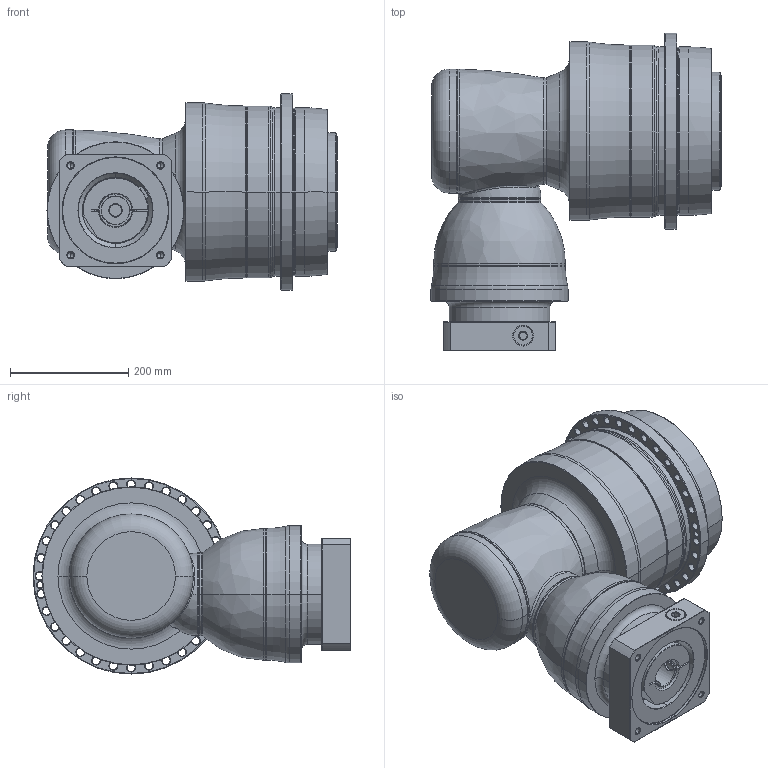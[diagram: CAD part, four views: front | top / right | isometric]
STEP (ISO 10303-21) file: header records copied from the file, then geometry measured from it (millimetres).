
FILE_DESCRIPTION((''),'2;1');
FILE_NAME('APK285_4ST_48-P0409B10201_ASM','2018-11-22T',('D00080'),(''),'PRO/ENGINEER BY PARAMETRIC TECHNOLOGY CORPORATION, 2015240','PRO/ENGINEER BY PARAMETRIC TECHNOLOGY CORPORATION, 2015240','');
FILE_SCHEMA(('CONFIG_CONTROL_DESIGN'));
Length unit declared in the file: millimetre
Products named in the file (13): P1008600002; P1832810001; P0278801003; P0359801103; P1211800001; P1315600001; P1007601001; P1317610601; P0503B00016; P0912556001; P0409B10201; 21711426021; APK285_4ST_48-P0409B10201_ASM
Assembly tree (12 placements, depth 2):
  APK285_4ST_48-P0409B10201_ASM
    P1008600002
    P1832810001
    P0278801003
    P0359801103
    P1211800001
    P1315600001
    P1007601001
    P1317610601
    P0503B00016
    P0912556001
    P0409B10201
    21711426021
Bounding box: 491 x 538 x 332 mm (x, y, z)
Volume: 31627648.3 mm3; surface area: 1828292.6 mm2
Topology: 13 solids, 36 shells, 800 faces, 1823 edges, 1091 vertices
Faces by surface type: cylinder 310, cone 250, plane 121, torus 84, bspline 33, sphere 2
Entity records: 29324 total; most frequent: CARTESIAN_POINT 10634, DIRECTION 4285, ORIENTED_EDGE 3480, AXIS2_PLACEMENT_3D 1830, EDGE_CURVE 1787, VERTEX_POINT 1091, CIRCLE 1026, EDGE_LOOP 962
